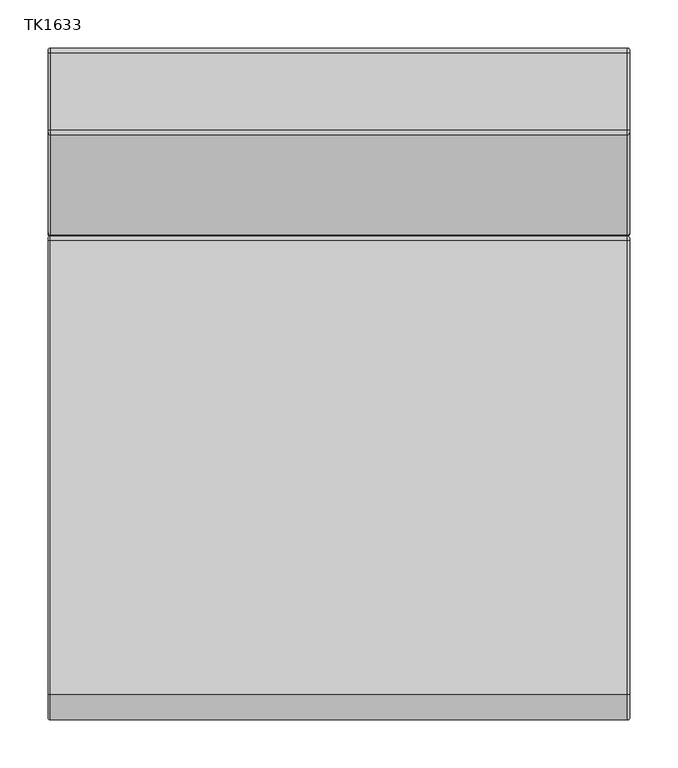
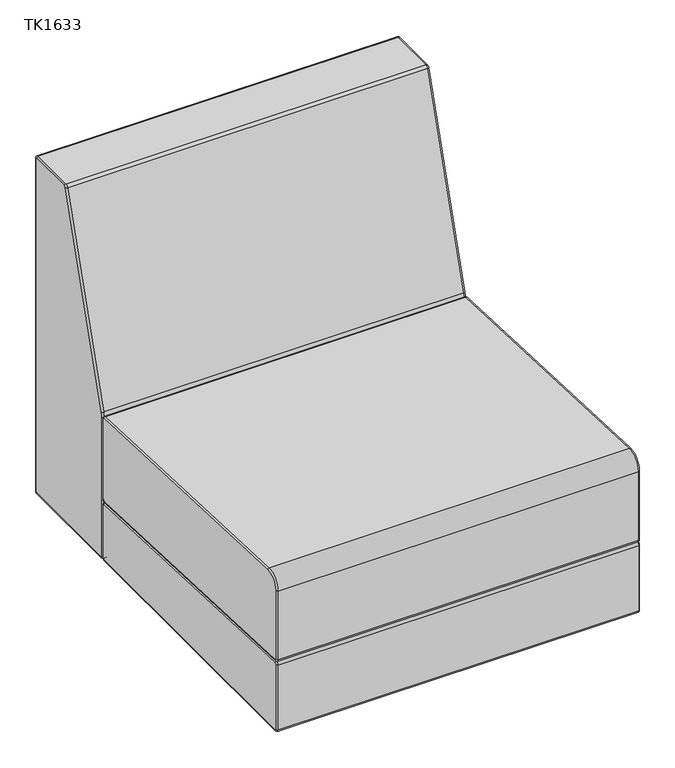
"""IFC4 building model written with IfcOpenShell, lengths in millimetres: furniture geometry, JSI-Teekan-Three_Seat_Lounge : TK1633."""

from ifc_helpers import new_model, si_unit, point, frame, origin, place, context, project, spatial, circle_curve, ellipse_curve, trimmed, source, transform, mapped, element, save
from ifc_brep_helpers import plane_surface, cylinder_surface, revolved_surface, advanced_brep


def tk1633_6774717b(model_context):
    return source(origin(), model_context, "Body", "AdvancedBrep", [
        advanced_brep(
        [(905.4703125, 148.7693192, 295.6513391), (905.4703125, 153.733973, 300.4095468), (907.8515625, 151.352723, 300.4095468), (907.8515625, 148.8703961, 298.0304429), (304.9984375, 148.7693192, 295.6513391), (304.9984375, 153.733973, 300.4095468), (302.6171875, 148.8703961, 298.0304429), (302.6171875, 151.352723, 300.4095468), (907.8515625, -344.5512855, 318.9936072), (905.4703125, -344.6523625, 316.6145034), (304.9984375, -344.6523625, 316.6145034), (302.6171875, -344.5512855, 318.9936072), (905.4703125, -322.7527962, 467.50355), (907.8515625, -322.8538731, 465.1244462), (907.8515625, 149.0725499, 445.0745142), (905.4703125, 149.1736269, 447.4536181), (304.9984375, 149.1736269, 447.4536181), (304.9984375, -322.7527962, 467.50355), (302.6171875, 149.0725499, 445.0745142), (302.6171875, -322.8538731, 465.1244462), (907.8515625, 151.352723, 442.6954104), (905.4703125, 153.733973, 442.6954104), (304.9984375, 153.733973, 442.6954104), (302.6171875, 151.352723, 442.6954104), (907.8515625, -346.8497, 321.3917439), (905.4703125, -349.23095, 321.3917439), (304.9984375, -349.23095, 321.3917439), (302.6171875, -346.8497, 321.3917439), (907.8515625, -346.8497, 442.1264425), (905.4703125, -349.23095, 442.1264425), (304.9984375, -349.23095, 442.1264425), (302.6171875, -346.8497, 442.1264425)],
        [
            (0, 1, circle_curve(frame((905.4703125, 148.971473, 300.4095468), z_axis=(1.0, 0.0, 0.0), x_axis=(0.0, 1.0, 0.0)), 4.7625)),
            (1, 2, circle_curve(frame((905.4703125, 151.352723, 300.4095468), z_axis=(0.0, 0.0, -1.0), x_axis=(1.0, 0.0, 0.0)), 2.38125)),
            (2, 3, circle_curve(frame((907.8515625, 148.971473, 300.4095468), z_axis=(-1.0, 0.0, 0.0), x_axis=(0.0, 1.0, 0.0)), 2.38125)),
            (3, 0, circle_curve(frame((905.4703125, 148.8703961, 298.0304429), z_axis=(0.0, 0.9990987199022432, -0.04244700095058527), x_axis=(1.0, 0.0, 0.0)), 2.38125)),
            (0, 4),
            (4, 5, circle_curve(frame((304.9984375, 148.971473, 300.4095468), z_axis=(1.0, 0.0, 0.0), x_axis=(0.0, 1.0, 0.0)), 4.7625)),
            (5, 1),
            (4, 6, circle_curve(frame((304.9984375, 148.8703961, 298.0304429), z_axis=(0.0, 0.999098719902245, -0.042447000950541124), x_axis=(1.0, 0.0, 0.0)), 2.38125)),
            (6, 7, circle_curve(frame((302.6171875, 148.971473, 300.4095468), z_axis=(1.0, 0.0, 0.0), x_axis=(0.0, 1.0, 0.0)), 2.38125)),
            (7, 5, circle_curve(frame((304.9984375, 151.352723, 300.4095468), z_axis=(0.0, 0.0, -1.0), x_axis=(1.0, 0.0, 0.0)), 2.38125)),
            (3, 8),
            (8, 9, circle_curve(frame((905.4703125, -344.5512855, 318.9936072), z_axis=(0.0, 0.9990987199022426, -0.04244700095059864), x_axis=(1.0, 0.0, 0.0)), 2.38125)),
            (9, 0),
            (9, 10),
            (10, 4),
            (10, 11, circle_curve(frame((304.9984375, -344.5512855, 318.9936072), z_axis=(0.0, 0.9990987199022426, -0.04244700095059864), x_axis=(1.0, 0.0, 0.0)), 2.38125)),
            (11, 6),
            (12, 13, circle_curve(frame((905.4703125, -322.8538731, 465.1244462), z_axis=(0.0, 0.9990987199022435, -0.0424470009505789), x_axis=(1.0, 0.0, 0.0)), 2.38125)),
            (13, 14),
            (14, 15, circle_curve(frame((905.4703125, 149.0725499, 445.0745142), z_axis=(0.0, -0.9990987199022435, 0.0424470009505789), x_axis=(1.0, 0.0, 0.0)), 2.38125)),
            (15, 12),
            (15, 16),
            (16, 17),
            (17, 12),
            (16, 18, circle_curve(frame((304.9984375, 149.0725499, 445.0745142), z_axis=(0.0, -0.9990987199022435, 0.0424470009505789), x_axis=(1.0, 0.0, 0.0)), 2.38125)),
            (18, 19),
            (19, 17, circle_curve(frame((304.9984375, -322.8538731, 465.1244462), z_axis=(0.0, 0.9990987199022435, -0.0424470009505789), x_axis=(1.0, 0.0, 0.0)), 2.38125)),
            (14, 20, circle_curve(frame((907.8515625, 148.971473, 442.6954104), z_axis=(-1.0, 0.0, 0.0), x_axis=(0.0, 0.04244700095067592, 0.9990987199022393)), 2.38125)),
            (20, 21, circle_curve(frame((905.4703125, 151.352723, 442.6954104), z_axis=(0.0, 0.0, 1.0), x_axis=(1.0, 0.0, 0.0)), 2.38125)),
            (21, 15, circle_curve(frame((905.4703125, 148.971473, 442.6954104), z_axis=(1.0, 0.0, 0.0), x_axis=(0.0, 0.04244700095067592, 0.9990987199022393)), 4.7625)),
            (21, 22),
            (22, 16, circle_curve(frame((304.9984375, 148.971473, 442.6954104), z_axis=(1.0, 0.0, 0.0), x_axis=(0.0, 0.04244700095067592, 0.9990987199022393)), 4.7625)),
            (22, 23, circle_curve(frame((304.9984375, 151.352723, 442.6954104), z_axis=(0.0, 0.0, 1.0), x_axis=(1.0, 0.0, 0.0)), 2.38125)),
            (23, 18, circle_curve(frame((302.6171875, 148.971473, 442.6954104), z_axis=(1.0, 0.0, 0.0), x_axis=(0.0, 0.04244700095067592, 0.9990987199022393)), 2.38125)),
            (1, 21),
            (20, 2),
            (5, 22),
            (7, 23),
            (8, 24, circle_curve(frame((907.8515625, -344.4494, 321.3917439), z_axis=(-1.0, 0.0, 0.0), x_axis=(0.0, -0.04244700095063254, -0.9990987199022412)), 2.4003)),
            (24, 25, circle_curve(frame((905.4703125, -346.8497, 321.3917439), z_axis=(0.0, 0.0, -1.0), x_axis=(1.0, 0.0, 0.0)), 2.38125)),
            (25, 9, circle_curve(frame((905.4703125, -344.4494, 321.3917439), z_axis=(1.0, 0.0, 0.0), x_axis=(0.0, -0.04244700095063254, -0.9990987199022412)), 4.78155)),
            (25, 26),
            (26, 10, circle_curve(frame((304.9984375, -344.4494, 321.3917439), z_axis=(1.0, 0.0, 0.0), x_axis=(0.0, -0.04244700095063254, -0.9990987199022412)), 4.78155)),
            (26, 27, circle_curve(frame((304.9984375, -346.8497, 321.3917439), z_axis=(0.0, 0.0, -1.0), x_axis=(1.0, 0.0, 0.0)), 2.38125)),
            (27, 11, circle_curve(frame((302.6171875, -344.4494, 321.3917439), z_axis=(1.0, 0.0, 0.0), x_axis=(0.0, -0.04244700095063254, -0.9990987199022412)), 2.4003)),
            (24, 28),
            (28, 29, circle_curve(frame((905.4703125, -346.8497, 442.1264425), z_axis=(0.0, 0.0, -1.0), x_axis=(1.0, 0.0, 0.0)), 2.38125)),
            (29, 25),
            (29, 30),
            (30, 26),
            (30, 31, circle_curve(frame((304.9984375, -346.8497, 442.1264425), z_axis=(0.0, 0.0, -1.0), x_axis=(1.0, 0.0, 0.0)), 2.38125)),
            (31, 27),
            (13, 28, circle_curve(frame((907.8515625, -323.83095, 442.1264425), z_axis=(1.0, 0.0, 0.0), x_axis=(0.0, -1.0, 0.0)), 23.01875)),
            (12, 29, circle_curve(frame((905.4703125, -323.83095, 442.1264425), z_axis=(1.0, 0.0, 0.0), x_axis=(0.0, -1.0, 0.0)), 25.4)),
            (17, 30, circle_curve(frame((304.9984375, -323.83095, 442.1264425), z_axis=(1.0, 0.0, 0.0), x_axis=(0.0, -1.0, 0.0)), 25.4)),
            (19, 31, circle_curve(frame((302.6171875, -323.83095, 442.1264425), z_axis=(1.0, 0.0, 0.0), x_axis=(0.0, -1.0, 0.0)), 23.01875)),
        ],
        [
            revolved_surface(trimmed(ellipse_curve(frame((905.4703125, 151.352723, 300.4095468), z_axis=(0.0, 0.0, 1.0), x_axis=(1.0, 0.0, 0.0)), 2.38125, 2.38125), [point((907.8515625, 151.352723, 300.4095468))], [point((905.4703125, 153.733973, 300.4095468))], True, "CARTESIAN"), (605.234375, 148.971473, 300.4095468), (-1.0, 0.0, 0.0)),
            cylinder_surface(frame((605.234375, 148.971473, 300.4095468), z_axis=(-1.0, 0.0, 0.0), x_axis=(0.0, 1.0, 0.0)), 4.7625),
            revolved_surface(trimmed(ellipse_curve(frame((304.9984375, 151.352723, 300.4095468), z_axis=(0.0, 0.0, 1.0), x_axis=(1.0, 0.0, 0.0)), 2.38125, 2.38125), [point((304.9984375, 153.733973, 300.4095468))], [point((302.6171875, 151.352723, 300.4095468))], True, "CARTESIAN"), (605.234375, 148.971473, 300.4095468), (-1.0, 0.0, 0.0)),
            cylinder_surface(frame((905.4703125, 148.8703961, 298.0304429), z_axis=(0.0, 0.9990987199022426, -0.04244700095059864), x_axis=(1.0, 0.0, 0.0)), 2.38125),
            plane_surface(frame((905.4703125, 148.7693192, 295.6513391), z_axis=(0.0, -0.04244700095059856, -0.9990987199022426), x_axis=(0.0, -0.9990987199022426, 0.04244700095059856))),
            cylinder_surface(frame((304.9984375, 148.8703961, 298.0304429), z_axis=(0.0, 0.9990987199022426, -0.04244700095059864), x_axis=(1.0, 0.0, 0.0)), 2.38125),
            cylinder_surface(frame((905.4703125, -322.8538731, 465.1244462), z_axis=(0.0, -0.9990987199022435, 0.0424470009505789), x_axis=(1.0, 0.0, 0.0)), 2.38125),
            plane_surface(frame((905.4703125, -322.7527962, 467.50355), z_axis=(0.0, 0.04244700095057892, 0.9990987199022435), x_axis=(0.0, 0.9990987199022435, -0.04244700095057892))),
            cylinder_surface(frame((304.9984375, -322.8538731, 465.1244462), z_axis=(0.0, -0.9990987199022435, 0.0424470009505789), x_axis=(1.0, 0.0, 0.0)), 2.38125),
            revolved_surface(trimmed(ellipse_curve(frame((905.4703125, 149.0725499, 445.0745142), z_axis=(0.0, -0.9990987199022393, 0.04244700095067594), x_axis=(1.0, 0.0, 0.0)), 2.38125, 2.38125), [point((907.8515625, 149.0725499, 445.0745142))], [point((905.4703125, 149.1736269, 447.4536181))], True, "CARTESIAN"), (605.234375, 148.971473, 442.6954104), (-1.0, 0.0, 0.0)),
            cylinder_surface(frame((605.234375, 148.971473, 442.6954104), z_axis=(-1.0, 0.0, 0.0), x_axis=(0.0, 0.04244700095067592, 0.9990987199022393)), 4.7625),
            revolved_surface(trimmed(ellipse_curve(frame((304.9984375, 149.0725499, 445.0745142), z_axis=(0.0, -0.9990987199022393, 0.04244700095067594), x_axis=(1.0, 0.0, 0.0)), 2.38125, 2.38125), [point((304.9984375, 149.1736269, 447.4536181))], [point((302.6171875, 149.0725499, 445.0745142))], True, "CARTESIAN"), (605.234375, 148.971473, 442.6954104), (-1.0, 0.0, 0.0)),
            cylinder_surface(frame((905.4703125, 151.352723, 442.6954104), z_axis=(0.0, 0.0, 1.0), x_axis=(1.0, 0.0, 0.0)), 2.38125),
            plane_surface(frame((905.4703125, 153.733973, 442.6954104), z_axis=(0.0, 1.0, 0.0), x_axis=(0.0, 0.0, -1.0))),
            cylinder_surface(frame((304.9984375, 151.352723, 442.6954104), z_axis=(0.0, 0.0, 1.0), x_axis=(1.0, 0.0, 0.0)), 2.38125),
            revolved_surface(trimmed(ellipse_curve(frame((905.4703125, -344.5512855, 318.9936072), z_axis=(0.0, 0.9990987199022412, -0.042447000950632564), x_axis=(1.0, 0.0, 0.0)), 2.38125, 2.38125), [point((907.8515625, -344.5512855, 318.9936072))], [point((905.4703125, -344.6523625, 316.6145034))], True, "CARTESIAN"), (605.234375, -344.4494, 321.3917439), (-1.0, 0.0, 0.0)),
            cylinder_surface(frame((605.234375, -344.4494, 321.3917439), z_axis=(-1.0, 0.0, 0.0), x_axis=(0.0, -0.04244700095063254, -0.9990987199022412)), 4.78155),
            revolved_surface(trimmed(ellipse_curve(frame((304.9984375, -344.5512855, 318.9936072), z_axis=(0.0, 0.9990987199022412, -0.042447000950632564), x_axis=(1.0, 0.0, 0.0)), 2.38125, 2.38125), [point((304.9984375, -344.6523625, 316.6145034))], [point((302.6171875, -344.5512855, 318.9936072))], True, "CARTESIAN"), (605.234375, -344.4494, 321.3917439), (-1.0, 0.0, 0.0)),
            cylinder_surface(frame((905.4703125, -346.8497, 321.3917439), z_axis=(0.0, 0.0, -1.0), x_axis=(1.0, 0.0, 0.0)), 2.38125),
            plane_surface(frame((905.4703125, -349.23095, 321.3917439), z_axis=(0.0, -1.0, 0.0), x_axis=(0.0, 0.0, 1.0))),
            cylinder_surface(frame((304.9984375, -346.8497, 321.3917439), z_axis=(0.0, 0.0, -1.0), x_axis=(1.0, 0.0, 0.0)), 2.38125),
            plane_surface(frame((907.8515625, -323.83095, 442.1264425), z_axis=(1.0, 0.0, 0.0), x_axis=(0.0, -1.0, 0.0))),
            revolved_surface(trimmed(ellipse_curve(frame((905.4703125, -346.8497, 442.1264425), z_axis=(0.0, 0.0, -1.0), x_axis=(1.0, 0.0, 0.0)), 2.38125, 2.38125), [point((907.8515625, -346.8497, 442.1264425))], [point((905.4703125, -349.23095, 442.1264425))], True, "CARTESIAN"), (605.234375, -323.83095, 442.1264425), (-1.0, 0.0, 0.0)),
            cylinder_surface(frame((605.234375, -323.83095, 442.1264425), z_axis=(-1.0, 0.0, 0.0), x_axis=(0.0, -1.0, 0.0)), 25.4),
            revolved_surface(trimmed(ellipse_curve(frame((304.9984375, -346.8497, 442.1264425), z_axis=(0.0, 0.0, -1.0), x_axis=(1.0, 0.0, 0.0)), 2.38125, 2.38125), [point((304.9984375, -349.23095, 442.1264425))], [point((302.6171875, -346.8497, 442.1264425))], True, "CARTESIAN"), (605.234375, -323.83095, 442.1264425), (-1.0, 0.0, 0.0)),
            plane_surface(frame((302.6171875, -323.83095, 442.1264425), z_axis=(-1.0, 0.0, 0.0), x_axis=(0.0, -1.0, 0.0))),
        ],
        [
            (0, [[1, 2, 3, 4]]),
            (1, [[-1, 5, 6, 7]]),
            (2, [[-6, 8, 9, 10]]),
            (3, [[-4, 11, 12, 13]]),
            (4, [[-5, -13, 14, 15]]),
            (5, [[-8, -15, 16, 17]]),
            (6, [[18, 19, 20, 21]]),
            (7, [[-21, 22, 23, 24]]),
            (8, [[-23, 25, 26, 27]]),
            (9, [[-20, 28, 29, 30]]),
            (10, [[-22, -30, 31, 32]]),
            (11, [[-25, -32, 33, 34]]),
            (12, [[-2, 35, -29, 36]]),
            (13, [[-7, 37, -31, -35]]),
            (14, [[-10, 38, -33, -37]]),
            (15, [[-12, 39, 40, 41]]),
            (16, [[-14, -41, 42, 43]]),
            (17, [[-16, -43, 44, 45]]),
            (18, [[-40, 46, 47, 48]]),
            (19, [[-42, -48, 49, 50]]),
            (20, [[-44, -50, 51, 52]]),
            (21, [[-3, -36, -28, -19, 53, -46, -39, -11]]),
            (22, [[-18, 54, -47, -53]]),
            (23, [[-24, 55, -49, -54]]),
            (24, [[-27, 56, -51, -55]]),
            (25, [[-9, -17, -45, -52, -56, -26, -34, -38]]),
        ],
    ),
        advanced_brep(
        [(304.9984375, -349.25, 197.5346851), (905.4703125, -349.25, 197.5346851), (905.4703125, -349.25, 311.8407029), (304.9984375, -349.25, 311.8407029), (302.6171875, -346.86875, 311.8407029), (302.6171875, -346.86875, 197.5346851), (907.8515625, -346.86875, 197.5346851), (907.8515625, -346.86875, 311.8407029), (304.9984375, -344.2853462, 316.5989106), (905.4703125, -344.2853462, 316.5989106), (905.4703125, 149.169864, 295.6343219), (304.9984375, 149.169864, 295.6343219), (302.6171875, 149.0687871, 293.255218), (302.6171875, -344.3864231, 314.2198068), (907.8515625, -344.3864231, 314.2198068), (907.8515625, 149.0687871, 293.255218), (905.4703125, 153.7302102, 290.8761142), (304.9984375, 153.7302102, 290.8761142), (302.6171875, 151.3489602, 290.8761142), (907.8515625, 151.3489602, 290.8761142), (905.4703125, 153.7302102, 197.5346851), (304.9984375, 153.7302102, 197.5346851), (302.6171875, 151.3489602, 197.5346851), (907.8515625, 151.3489602, 197.5346851), (905.4703125, 148.9677102, 192.7721851), (304.9984375, 148.9677102, 192.7721851), (302.6171875, 148.9677102, 195.1534351), (907.8515625, 148.9677102, 195.1534351), (905.4703125, -344.4875, 192.7721851), (304.9984375, -344.4875, 192.7721851), (302.6171875, -344.4875, 195.1534351), (907.8515625, -344.4875, 195.1534351)],
        [
            (0, 1),
            (1, 2),
            (2, 3),
            (3, 0),
            (3, 4, circle_curve(frame((304.9984375, -346.86875, 311.8407029), z_axis=(0.0, 0.0, -1.0), x_axis=(0.0, -1.0, 0.0)), 2.38125)),
            (4, 5),
            (5, 0, circle_curve(frame((304.9984375, -346.86875, 197.5346851), z_axis=(0.0, 0.0, 1.0), x_axis=(0.0, -1.0, 0.0)), 2.38125)),
            (1, 6, circle_curve(frame((905.4703125, -346.86875, 197.5346851), z_axis=(0.0, 0.0, 1.0), x_axis=(0.0, -1.0, 0.0)), 2.38125)),
            (6, 7),
            (7, 2, circle_curve(frame((905.4703125, -346.86875, 311.8407029), z_axis=(0.0, 0.0, -1.0), x_axis=(0.0, -1.0, 0.0)), 2.38125)),
            (8, 9),
            (9, 10),
            (10, 11),
            (11, 8),
            (11, 12, circle_curve(frame((304.9984375, 149.0687871, 293.255218), z_axis=(0.0, -0.9990987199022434, 0.04244700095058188), x_axis=(0.0, 0.04244700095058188, 0.9990987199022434)), 2.38125)),
            (12, 13),
            (13, 8, circle_curve(frame((304.9984375, -344.3864231, 314.2198068), z_axis=(0.0, 0.9990987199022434, -0.04244700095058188), x_axis=(0.0, 0.04244700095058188, 0.9990987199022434)), 2.38125)),
            (9, 14, circle_curve(frame((905.4703125, -344.3864231, 314.2198068), z_axis=(0.0, 0.9990987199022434, -0.04244700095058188), x_axis=(0.0, 0.04244700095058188, 0.9990987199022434)), 2.38125)),
            (14, 15),
            (15, 10, circle_curve(frame((905.4703125, 149.0687871, 293.255218), z_axis=(0.0, -0.9990987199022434, 0.04244700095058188), x_axis=(0.0, 0.04244700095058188, 0.9990987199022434)), 2.38125)),
            (10, 16, circle_curve(frame((905.4703125, 148.9677102, 290.8761142), z_axis=(-1.0, 0.0, 0.0), x_axis=(0.0, 0.0424470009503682, 0.9990987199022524)), 4.7625)),
            (16, 17),
            (17, 11, circle_curve(frame((304.9984375, 148.9677102, 290.8761142), z_axis=(1.0, 0.0, 0.0), x_axis=(0.0, 0.0424470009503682, 0.9990987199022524)), 4.7625)),
            (17, 18, circle_curve(frame((304.9984375, 151.3489602, 290.8761142), z_axis=(0.0, 0.0, 1.0), x_axis=(0.0, 1.0, 0.0)), 2.38125)),
            (18, 12, circle_curve(frame((302.6171875, 148.9677102, 290.8761142), z_axis=(1.0, 0.0, 0.0), x_axis=(0.0, 0.0424470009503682, 0.9990987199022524)), 2.38125)),
            (15, 19, circle_curve(frame((907.8515625, 148.9677102, 290.8761142), z_axis=(-1.0, 0.0, 0.0), x_axis=(0.0, 0.0424470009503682, 0.9990987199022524)), 2.38125)),
            (19, 16, circle_curve(frame((905.4703125, 151.3489602, 290.8761142), z_axis=(0.0, 0.0, 1.0), x_axis=(0.0, 1.0, 0.0)), 2.38125)),
            (16, 20),
            (20, 21),
            (21, 17),
            (21, 22, circle_curve(frame((304.9984375, 151.3489602, 197.5346851), z_axis=(0.0, 0.0, 1.0), x_axis=(0.0, 1.0, 0.0)), 2.38125)),
            (22, 18),
            (19, 23),
            (23, 20, circle_curve(frame((905.4703125, 151.3489602, 197.5346851), z_axis=(0.0, 0.0, 1.0), x_axis=(0.0, 1.0, 0.0)), 2.38125)),
            (20, 24, circle_curve(frame((905.4703125, 148.9677102, 197.5346851), z_axis=(-1.0, 0.0, 0.0), x_axis=(0.0, 1.0, 0.0)), 4.7625)),
            (24, 25),
            (25, 21, circle_curve(frame((304.9984375, 148.9677102, 197.5346851), z_axis=(1.0, 0.0, 0.0), x_axis=(0.0, 1.0, 0.0)), 4.7625)),
            (25, 26, circle_curve(frame((304.9984375, 148.9677102, 195.1534351), z_axis=(0.0, 1.0, 0.0), x_axis=(0.0, 0.0, -1.0)), 2.38125)),
            (26, 22, circle_curve(frame((302.6171875, 148.9677102, 197.5346851), z_axis=(1.0, 0.0, 0.0), x_axis=(0.0, 1.0, 0.0)), 2.38125)),
            (23, 27, circle_curve(frame((907.8515625, 148.9677102, 197.5346851), z_axis=(-1.0, 0.0, 0.0), x_axis=(0.0, 1.0, 0.0)), 2.38125)),
            (27, 24, circle_curve(frame((905.4703125, 148.9677102, 195.1534351), z_axis=(0.0, 1.0, 0.0), x_axis=(0.0, 0.0, -1.0)), 2.38125)),
            (24, 28),
            (28, 29),
            (29, 25),
            (29, 30, circle_curve(frame((304.9984375, -344.4875, 195.1534351), z_axis=(0.0, 1.0, 0.0), x_axis=(0.0, 0.0, -1.0)), 2.38125)),
            (30, 26),
            (27, 31),
            (31, 28, circle_curve(frame((905.4703125, -344.4875, 195.1534351), z_axis=(0.0, 1.0, 0.0), x_axis=(0.0, 0.0, -1.0)), 2.38125)),
            (0, 29, circle_curve(frame((304.9984375, -344.4875, 197.5346851), z_axis=(1.0, 0.0, 0.0), x_axis=(0.0, 0.0, -1.0)), 4.7625)),
            (28, 1, circle_curve(frame((905.4703125, -344.4875, 197.5346851), z_axis=(-1.0, 0.0, 0.0), x_axis=(0.0, 0.0, -1.0)), 4.7625)),
            (5, 30, circle_curve(frame((302.6171875, -344.4875, 197.5346851), z_axis=(1.0, 0.0, 0.0), x_axis=(0.0, 0.0, -1.0)), 2.38125)),
            (31, 6, circle_curve(frame((907.8515625, -344.4875, 197.5346851), z_axis=(-1.0, 0.0, 0.0), x_axis=(0.0, 0.0, -1.0)), 2.38125)),
            (2, 9, circle_curve(frame((905.4703125, -344.4875, 311.8407029), z_axis=(-1.0, 0.0, 0.0), x_axis=(0.0, -1.0, 0.0)), 4.7625)),
            (8, 3, circle_curve(frame((304.9984375, -344.4875, 311.8407029), z_axis=(1.0, 0.0, 0.0), x_axis=(0.0, -1.0, 0.0)), 4.7625)),
            (13, 4, circle_curve(frame((302.6171875, -344.4875, 311.8407029), z_axis=(1.0, 0.0, 0.0), x_axis=(0.0, -1.0, 0.0)), 2.38125)),
            (14, 7, circle_curve(frame((907.8515625, -344.4875, 311.8407029), z_axis=(1.0, 0.0, 0.0), x_axis=(0.0, -1.0, 0.0)), 2.38125)),
        ],
        [
            plane_surface(frame((905.4703125, -349.25, 197.5346851), z_axis=(0.0, -1.0, 0.0), x_axis=(0.0, 0.0, 1.0))),
            cylinder_surface(frame((304.9984375, -346.86875, 197.5346851), z_axis=(0.0, 0.0, -1.0), x_axis=(0.0, -1.0, 0.0)), 2.38125),
            cylinder_surface(frame((905.4703125, -346.86875, 197.5346851), z_axis=(0.0, 0.0, -1.0), x_axis=(0.0, -1.0, 0.0)), 2.38125),
            plane_surface(frame((905.4703125, -344.2853462, 316.5989106), z_axis=(0.0, 0.04244700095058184, 0.9990987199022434), x_axis=(0.0, 0.9990987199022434, -0.04244700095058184))),
            cylinder_surface(frame((304.9984375, -344.3864231, 314.2198068), z_axis=(0.0, -0.9990987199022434, 0.04244700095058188), x_axis=(0.0, 0.04244700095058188, 0.9990987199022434)), 2.38125),
            cylinder_surface(frame((905.4703125, -344.3864231, 314.2198068), z_axis=(0.0, -0.9990987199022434, 0.04244700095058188), x_axis=(0.0, 0.04244700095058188, 0.9990987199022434)), 2.38125),
            cylinder_surface(frame((605.234375, 148.9677102, 290.8761142), z_axis=(-1.0, 0.0, 0.0), x_axis=(0.0, 0.0424470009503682, 0.9990987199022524)), 4.7625),
            revolved_surface(trimmed(ellipse_curve(frame((304.9984375, 149.0687871, 293.255218), z_axis=(0.0, -0.9990987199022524, 0.042447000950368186), x_axis=(0.0, 0.042447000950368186, 0.9990987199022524)), 2.38125, 2.38125), [point((304.9984375, 149.169864, 295.6343219))], [point((302.6171875, 149.0687871, 293.255218))], True, "CARTESIAN"), (605.234375, 148.9677102, 290.8761142), (-1.0, 0.0, 0.0)),
            revolved_surface(trimmed(ellipse_curve(frame((905.4703125, 149.0687871, 293.255218), z_axis=(0.0, -0.9990987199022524, 0.042447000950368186), x_axis=(0.0, 0.042447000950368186, 0.9990987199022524)), 2.38125, 2.38125), [point((907.8515625, 149.0687871, 293.255218))], [point((905.4703125, 149.169864, 295.6343219))], True, "CARTESIAN"), (605.234375, 148.9677102, 290.8761142), (-1.0, 0.0, 0.0)),
            plane_surface(frame((905.4703125, 153.7302102, 290.8761142), z_axis=(0.0, 1.0, 0.0), x_axis=(0.0, 0.0, -1.0))),
            cylinder_surface(frame((304.9984375, 151.3489602, 290.8761142), z_axis=(0.0, 0.0, 1.0), x_axis=(0.0, 1.0, 0.0)), 2.38125),
            cylinder_surface(frame((905.4703125, 151.3489602, 290.8761142), z_axis=(0.0, 0.0, 1.0), x_axis=(0.0, 1.0, 0.0)), 2.38125),
            cylinder_surface(frame((605.234375, 148.9677102, 197.5346851), z_axis=(-1.0, 0.0, 0.0), x_axis=(0.0, 1.0, 0.0)), 4.7625),
            revolved_surface(trimmed(ellipse_curve(frame((304.9984375, 151.3489602, 197.5346851), z_axis=(0.0, 0.0, 1.0), x_axis=(0.0, 1.0, 0.0)), 2.38125, 2.38125), [point((304.9984375, 153.7302102, 197.5346851))], [point((302.6171875, 151.3489602, 197.5346851))], True, "CARTESIAN"), (605.234375, 148.9677102, 197.5346851), (-1.0, 0.0, 0.0)),
            revolved_surface(trimmed(ellipse_curve(frame((905.4703125, 151.3489602, 197.5346851), z_axis=(0.0, 0.0, 1.0), x_axis=(0.0, 1.0, 0.0)), 2.38125, 2.38125), [point((907.8515625, 151.3489602, 197.5346851))], [point((905.4703125, 153.7302102, 197.5346851))], True, "CARTESIAN"), (605.234375, 148.9677102, 197.5346851), (-1.0, 0.0, 0.0)),
            plane_surface(frame((905.4703125, 148.9677102, 192.7721851), z_axis=(0.0, 0.0, -1.0), x_axis=(0.0, -1.0, 0.0))),
            cylinder_surface(frame((304.9984375, 148.9677102, 195.1534351), z_axis=(0.0, 1.0, 0.0), x_axis=(0.0, 0.0, -1.0)), 2.38125),
            cylinder_surface(frame((905.4703125, 148.9677102, 195.1534351), z_axis=(0.0, 1.0, 0.0), x_axis=(0.0, 0.0, -1.0)), 2.38125),
            cylinder_surface(frame((605.234375, -344.4875, 197.5346851), z_axis=(-1.0, 0.0, 0.0), x_axis=(0.0, 0.0, -1.0)), 4.7625),
            revolved_surface(trimmed(ellipse_curve(frame((304.9984375, -344.4875, 195.1534351), z_axis=(0.0, 1.0, 0.0), x_axis=(0.0, 0.0, -1.0)), 2.38125, 2.38125), [point((304.9984375, -344.4875, 192.7721851))], [point((302.6171875, -344.4875, 195.1534351))], True, "CARTESIAN"), (605.234375, -344.4875, 197.5346851), (-1.0, 0.0, 0.0)),
            revolved_surface(trimmed(ellipse_curve(frame((905.4703125, -344.4875, 195.1534351), z_axis=(0.0, 1.0, 0.0), x_axis=(0.0, 0.0, -1.0)), 2.38125, 2.38125), [point((907.8515625, -344.4875, 195.1534351))], [point((905.4703125, -344.4875, 192.7721851))], True, "CARTESIAN"), (605.234375, -344.4875, 197.5346851), (-1.0, 0.0, 0.0)),
            cylinder_surface(frame((605.234375, -344.4875, 311.8407029), z_axis=(-1.0, 0.0, 0.0), x_axis=(0.0, -1.0, 0.0)), 4.7625),
            revolved_surface(trimmed(ellipse_curve(frame((304.9984375, -346.86875, 311.8407029), z_axis=(0.0, 0.0, -1.0), x_axis=(0.0, -1.0, 0.0)), 2.38125, 2.38125), [point((304.9984375, -349.25, 311.8407029))], [point((302.6171875, -346.86875, 311.8407029))], True, "CARTESIAN"), (605.234375, -344.4875, 311.8407029), (-1.0, 0.0, 0.0)),
            plane_surface(frame((302.6171875, -344.4875, 311.8407029), z_axis=(-1.0, 0.0, 0.0), x_axis=(0.0, -1.0, 0.0))),
            plane_surface(frame((907.8515625, -344.4875, 311.8407029), z_axis=(1.0, 0.0, 0.0), x_axis=(0.0, -1.0, 0.0))),
            revolved_surface(trimmed(ellipse_curve(frame((905.4703125, -346.86875, 311.8407029), z_axis=(0.0, 0.0, -1.0), x_axis=(0.0, -1.0, 0.0)), 2.38125, 2.38125), [point((907.8515625, -346.86875, 311.8407029))], [point((905.4703125, -349.25, 311.8407029))], True, "CARTESIAN"), (605.234375, -344.4875, 311.8407029), (-1.0, 0.0, 0.0)),
        ],
        [
            (0, [[1, 2, 3, 4]]),
            (1, [[-4, 5, 6, 7]]),
            (2, [[-2, 8, 9, 10]]),
            (3, [[11, 12, 13, 14]]),
            (4, [[-14, 15, 16, 17]]),
            (5, [[-12, 18, 19, 20]]),
            (6, [[-13, 21, 22, 23]]),
            (7, [[-15, -23, 24, 25]]),
            (8, [[-20, 26, 27, -21]]),
            (9, [[-22, 28, 29, 30]]),
            (10, [[-24, -30, 31, 32]]),
            (11, [[-27, 33, 34, -28]]),
            (12, [[-29, 35, 36, 37]]),
            (13, [[-31, -37, 38, 39]]),
            (14, [[-34, 40, 41, -35]]),
            (15, [[-36, 42, 43, 44]]),
            (16, [[-38, -44, 45, 46]]),
            (17, [[-41, 47, 48, -42]]),
            (18, [[-1, 49, -43, 50]]),
            (19, [[-7, 51, -45, -49]]),
            (20, [[-8, -50, -48, 52]]),
            (21, [[-3, 53, -11, 54]]),
            (22, [[-5, -54, -17, 55]]),
            (23, [[-6, -55, -16, -25, -32, -39, -46, -51]]),
            (24, [[-9, -52, -47, -40, -33, -26, -19, 56]]),
            (25, [[-10, -56, -18, -53]]),
        ],
    ),
        advanced_brep(
        [(907.8515625, 261.4671324, 783.3496278), (907.8515625, 263.7394056, 785.01875), (905.4703125, 263.7394056, 787.4), (905.4703125, 259.1948592, 784.0617556), (304.9984375, 259.1948592, 784.0617556), (304.9984375, 263.7394056, 787.4), (302.6171875, 263.7394056, 785.01875), (302.6171875, 261.4671324, 783.3496278), (905.4703125, 155.07802, 451.8434221), (907.8515625, 157.3502932, 451.1312943), (302.6171875, 157.3502932, 451.1312943), (304.9984375, 155.07802, 451.8434221), (905.4703125, 153.733973, 443.0605128), (907.8515625, 156.115223, 443.0605128), (302.6171875, 156.115223, 443.0605128), (304.9984375, 153.733973, 443.0605128), (905.4703125, 153.733973, 197.5346851), (907.8515625, 156.115223, 197.5346851), (302.6171875, 156.115223, 197.5346851), (304.9984375, 153.733973, 197.5346851), (905.4703125, 158.496473, 192.7721851), (907.8515625, 158.496473, 195.1534351), (302.6171875, 158.496473, 195.1534351), (304.9984375, 158.496473, 192.7721851), (905.4703125, 344.4875, 192.7721851), (907.8515625, 344.4875, 195.1534351), (302.6171875, 344.4875, 195.1534351), (304.9984375, 344.4875, 192.7721851), (905.4703125, 349.25, 197.5346851), (907.8515625, 346.86875, 197.5346851), (302.6171875, 346.86875, 197.5346851), (304.9984375, 349.25, 197.5346851), (905.4703125, 349.25, 782.6375), (907.8515625, 346.86875, 782.6375), (302.6171875, 346.86875, 782.6375), (304.9984375, 349.25, 782.6375), (905.4703125, 344.4875, 787.4), (907.8515625, 344.4875, 785.01875), (302.6171875, 344.4875, 785.01875), (304.9984375, 344.4875, 787.4)],
        [
            (0, 1, circle_curve(frame((907.8515625, 263.7394056, 782.6375), z_axis=(-1.0, 0.0, 0.0), x_axis=(0.0, 0.0, 1.0)), 2.38125)),
            (1, 2, circle_curve(frame((905.4703125, 263.7394056, 785.01875), z_axis=(0.0, -1.0, 0.0), x_axis=(0.0, 0.0, -1.0)), 2.38125)),
            (2, 3, circle_curve(frame((905.4703125, 263.7394056, 782.6375), z_axis=(1.0, 0.0, 0.0), x_axis=(0.0, 0.0, 1.0)), 4.7625)),
            (3, 0, circle_curve(frame((905.4703125, 261.4671324, 783.3496278), z_axis=(0.0, 0.29905628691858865, 0.9542354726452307), x_axis=(0.0, 0.9542354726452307, -0.29905628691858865)), 2.38125)),
            (4, 5, circle_curve(frame((304.9984375, 263.7394056, 782.6375), z_axis=(-1.0, 0.0, 0.0), x_axis=(0.0, 0.0, 1.0)), 4.7625)),
            (5, 6, circle_curve(frame((304.9984375, 263.7394056, 785.01875), z_axis=(0.0, -1.0, 0.0), x_axis=(0.0, 0.0, -1.0)), 2.38125)),
            (6, 7, circle_curve(frame((302.6171875, 263.7394056, 782.6375), z_axis=(1.0, 0.0, 0.0), x_axis=(0.0, 0.0, 1.0)), 2.38125)),
            (7, 4, circle_curve(frame((304.9984375, 261.4671324, 783.3496278), z_axis=(0.0, 0.29905628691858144, 0.9542354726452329), x_axis=(0.0, 0.9542354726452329, -0.29905628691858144)), 2.38125)),
            (2, 5),
            (4, 3),
            (3, 8),
            (8, 9, circle_curve(frame((905.4703125, 157.3502932, 451.1312943), z_axis=(0.0, 0.29905628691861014, 0.954235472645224), x_axis=(0.0, 0.954235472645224, -0.29905628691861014)), 2.38125)),
            (9, 0),
            (7, 10),
            (10, 11, circle_curve(frame((304.9984375, 157.3502932, 451.1312943), z_axis=(0.0, 0.29905628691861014, 0.954235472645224), x_axis=(0.0, 0.954235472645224, -0.29905628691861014)), 2.38125)),
            (11, 4),
            (11, 8),
            (8, 12, circle_curve(frame((905.4703125, 183.102723, 443.0605128), z_axis=(1.0, 0.0, 0.0), x_axis=(0.0, -0.9542354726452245, 0.29905628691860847)), 29.36875)),
            (12, 13, circle_curve(frame((905.4703125, 156.115223, 443.0605128), z_axis=(0.0, 0.0, 1.0), x_axis=(0.0, 1.0, 0.0)), 2.38125)),
            (13, 9, circle_curve(frame((907.8515625, 183.102723, 443.0605128), z_axis=(-1.0, 0.0, 0.0), x_axis=(0.0, -0.9542354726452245, 0.29905628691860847)), 26.9875)),
            (10, 14, circle_curve(frame((302.6171875, 183.102723, 443.0605128), z_axis=(1.0, 0.0, 0.0), x_axis=(0.0, -0.9542354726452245, 0.29905628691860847)), 26.9875)),
            (14, 15, circle_curve(frame((304.9984375, 156.115223, 443.0605128), z_axis=(0.0, 0.0, 1.0), x_axis=(0.0, 1.0, 0.0)), 2.38125)),
            (15, 11, circle_curve(frame((304.9984375, 183.102723, 443.0605128), z_axis=(-1.0, 0.0, 0.0), x_axis=(0.0, -0.9542354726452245, 0.29905628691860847)), 29.36875)),
            (15, 12),
            (12, 16),
            (16, 17, circle_curve(frame((905.4703125, 156.115223, 197.5346851), z_axis=(0.0, 0.0, 1.0), x_axis=(0.0, 1.0, 0.0)), 2.38125)),
            (17, 13),
            (14, 18),
            (18, 19, circle_curve(frame((304.9984375, 156.115223, 197.5346851), z_axis=(0.0, 0.0, 1.0), x_axis=(0.0, 1.0, 0.0)), 2.38125)),
            (19, 15),
            (19, 16),
            (16, 20, circle_curve(frame((905.4703125, 158.496473, 197.5346851), z_axis=(1.0, 0.0, 0.0), x_axis=(0.0, -1.0, 0.0)), 4.7625)),
            (20, 21, circle_curve(frame((905.4703125, 158.496473, 195.1534351), z_axis=(0.0, -1.0, 0.0), x_axis=(0.0, 0.0, 1.0)), 2.38125)),
            (21, 17, circle_curve(frame((907.8515625, 158.496473, 197.5346851), z_axis=(-1.0, 0.0, 0.0), x_axis=(0.0, -1.0, 0.0)), 2.38125)),
            (18, 22, circle_curve(frame((302.6171875, 158.496473, 197.5346851), z_axis=(1.0, 0.0, 0.0), x_axis=(0.0, -1.0, 0.0)), 2.38125)),
            (22, 23, circle_curve(frame((304.9984375, 158.496473, 195.1534351), z_axis=(0.0, -1.0, 0.0), x_axis=(0.0, 0.0, 1.0)), 2.38125)),
            (23, 19, circle_curve(frame((304.9984375, 158.496473, 197.5346851), z_axis=(-1.0, 0.0, 0.0), x_axis=(0.0, -1.0, 0.0)), 4.7625)),
            (23, 20),
            (20, 24),
            (24, 25, circle_curve(frame((905.4703125, 344.4875, 195.1534351), z_axis=(0.0, -1.0, 0.0), x_axis=(0.0, 0.0, 1.0)), 2.38125)),
            (25, 21),
            (22, 26),
            (26, 27, circle_curve(frame((304.9984375, 344.4875, 195.1534351), z_axis=(0.0, -1.0, 0.0), x_axis=(0.0, 0.0, 1.0)), 2.38125)),
            (27, 23),
            (27, 24),
            (24, 28, circle_curve(frame((905.4703125, 344.4875, 197.5346851), z_axis=(1.0, 0.0, 0.0), x_axis=(0.0, 0.0, -1.0)), 4.7625)),
            (28, 29, circle_curve(frame((905.4703125, 346.86875, 197.5346851), z_axis=(0.0, 0.0, -1.0), x_axis=(0.0, -1.0, 0.0)), 2.38125)),
            (29, 25, circle_curve(frame((907.8515625, 344.4875, 197.5346851), z_axis=(-1.0, 0.0, 0.0), x_axis=(0.0, 0.0, -1.0)), 2.38125)),
            (26, 30, circle_curve(frame((302.6171875, 344.4875, 197.5346851), z_axis=(1.0, 0.0, 0.0), x_axis=(0.0, 0.0, -1.0)), 2.38125)),
            (30, 31, circle_curve(frame((304.9984375, 346.86875, 197.5346851), z_axis=(0.0, 0.0, -1.0), x_axis=(0.0, -1.0, 0.0)), 2.38125)),
            (31, 27, circle_curve(frame((304.9984375, 344.4875, 197.5346851), z_axis=(-1.0, 0.0, 0.0), x_axis=(0.0, 0.0, -1.0)), 4.7625)),
            (31, 28),
            (28, 32),
            (32, 33, circle_curve(frame((905.4703125, 346.86875, 782.6375), z_axis=(0.0, 0.0, -1.0), x_axis=(0.0, -1.0, 0.0)), 2.38125)),
            (33, 29),
            (30, 34),
            (34, 35, circle_curve(frame((304.9984375, 346.86875, 782.6375), z_axis=(0.0, 0.0, -1.0), x_axis=(0.0, -1.0, 0.0)), 2.38125)),
            (35, 31),
            (35, 32),
            (32, 36, circle_curve(frame((905.4703125, 344.4875, 782.6375), z_axis=(1.0, 0.0, 0.0), x_axis=(0.0, 1.0, 0.0)), 4.7625)),
            (36, 37, circle_curve(frame((905.4703125, 344.4875, 785.01875), z_axis=(0.0, 1.0, 0.0), x_axis=(0.0, 0.0, -1.0)), 2.38125)),
            (37, 33, circle_curve(frame((907.8515625, 344.4875, 782.6375), z_axis=(-1.0, 0.0, 0.0), x_axis=(0.0, 1.0, 0.0)), 2.38125)),
            (34, 38, circle_curve(frame((302.6171875, 344.4875, 782.6375), z_axis=(1.0, 0.0, 0.0), x_axis=(0.0, 1.0, 0.0)), 2.38125)),
            (38, 39, circle_curve(frame((304.9984375, 344.4875, 785.01875), z_axis=(0.0, 1.0, 0.0), x_axis=(0.0, 0.0, -1.0)), 2.38125)),
            (39, 35, circle_curve(frame((304.9984375, 344.4875, 782.6375), z_axis=(-1.0, 0.0, 0.0), x_axis=(0.0, 1.0, 0.0)), 4.7625)),
            (39, 36),
            (1, 37),
            (36, 2),
            (6, 38),
            (5, 39),
        ],
        [
            revolved_surface(trimmed(ellipse_curve(frame((905.4703125, 263.7394056, 785.01875), z_axis=(0.0, 1.0, 0.0), x_axis=(0.0, 0.0, -1.0)), 2.38125, 2.38125), [point((905.4703125, 263.7394056, 787.4))], [point((907.8515625, 263.7394056, 785.01875))], True, "CARTESIAN"), (605.234375, 263.7394056, 782.6375), (1.0, 0.0, 0.0)),
            revolved_surface(trimmed(ellipse_curve(frame((304.9984375, 263.7394056, 785.01875), z_axis=(0.0, 1.0, 0.0), x_axis=(0.0, 0.0, -1.0)), 2.38125, 2.38125), [point((302.6171875, 263.7394056, 785.01875))], [point((304.9984375, 263.7394056, 787.4))], True, "CARTESIAN"), (605.234375, 263.7394056, 782.6375), (1.0, 0.0, 0.0)),
            cylinder_surface(frame((605.234375, 263.7394056, 782.6375), z_axis=(1.0, 0.0, 0.0), x_axis=(0.0, 0.0, 1.0)), 4.7625),
            cylinder_surface(frame((905.4703125, 261.4671324, 783.3496278), z_axis=(0.0, 0.29905628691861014, 0.954235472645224), x_axis=(0.0, 0.954235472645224, -0.29905628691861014)), 2.38125),
            cylinder_surface(frame((304.9984375, 261.4671324, 783.3496278), z_axis=(0.0, 0.29905628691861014, 0.954235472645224), x_axis=(0.0, 0.954235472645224, -0.29905628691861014)), 2.38125),
            plane_surface(frame((304.9984375, 259.1948592, 784.0617556), z_axis=(0.0, -0.954235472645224, 0.29905628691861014), x_axis=(0.0, -0.29905628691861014, -0.954235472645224))),
            revolved_surface(trimmed(ellipse_curve(frame((905.4703125, 157.3502932, 451.1312943), z_axis=(0.0, 0.299056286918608, 0.9542354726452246), x_axis=(0.0, 0.9542354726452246, -0.299056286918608)), 2.38125, 2.38125), [point((905.4703125, 155.07802, 451.8434221))], [point((907.8515625, 157.3502932, 451.1312943))], True, "CARTESIAN"), (605.234375, 183.102723, 443.0605128), (1.0, 0.0, 0.0)),
            revolved_surface(trimmed(ellipse_curve(frame((304.9984375, 157.3502932, 451.1312943), z_axis=(0.0, 0.299056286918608, 0.9542354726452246), x_axis=(0.0, 0.9542354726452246, -0.299056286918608)), 2.38125, 2.38125), [point((302.6171875, 157.3502932, 451.1312943))], [point((304.9984375, 155.07802, 451.8434221))], True, "CARTESIAN"), (605.234375, 183.102723, 443.0605128), (1.0, 0.0, 0.0)),
            cylinder_surface(frame((605.234375, 183.102723, 443.0605128), z_axis=(1.0, 0.0, 0.0), x_axis=(0.0, -0.9542354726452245, 0.29905628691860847)), 29.36875),
            cylinder_surface(frame((905.4703125, 156.115223, 443.0605128), z_axis=(0.0, 0.0, 1.0), x_axis=(0.0, 1.0, 0.0)), 2.38125),
            cylinder_surface(frame((304.9984375, 156.115223, 443.0605128), z_axis=(0.0, 0.0, 1.0), x_axis=(0.0, 1.0, 0.0)), 2.38125),
            plane_surface(frame((304.9984375, 153.733973, 443.0605128), z_axis=(0.0, -1.0, 0.0), x_axis=(0.0, 0.0, -1.0))),
            revolved_surface(trimmed(ellipse_curve(frame((905.4703125, 156.115223, 197.5346851), z_axis=(0.0, 0.0, 1.0), x_axis=(0.0, 1.0, 0.0)), 2.38125, 2.38125), [point((905.4703125, 153.733973, 197.5346851))], [point((907.8515625, 156.115223, 197.5346851))], True, "CARTESIAN"), (605.234375, 158.496473, 197.5346851), (1.0, 0.0, 0.0)),
            revolved_surface(trimmed(ellipse_curve(frame((304.9984375, 156.115223, 197.5346851), z_axis=(0.0, 0.0, 1.0), x_axis=(0.0, 1.0, 0.0)), 2.38125, 2.38125), [point((302.6171875, 156.115223, 197.5346851))], [point((304.9984375, 153.733973, 197.5346851))], True, "CARTESIAN"), (605.234375, 158.496473, 197.5346851), (1.0, 0.0, 0.0)),
            cylinder_surface(frame((605.234375, 158.496473, 197.5346851), z_axis=(1.0, 0.0, 0.0), x_axis=(0.0, -1.0, 0.0)), 4.7625),
            cylinder_surface(frame((905.4703125, 158.496473, 195.1534351), z_axis=(0.0, -1.0, 0.0), x_axis=(0.0, 0.0, 1.0)), 2.38125),
            cylinder_surface(frame((304.9984375, 158.496473, 195.1534351), z_axis=(0.0, -1.0, 0.0), x_axis=(0.0, 0.0, 1.0)), 2.38125),
            plane_surface(frame((304.9984375, 158.496473, 192.7721851), z_axis=(0.0, 0.0, -1.0), x_axis=(0.0, 1.0, 0.0))),
            revolved_surface(trimmed(ellipse_curve(frame((905.4703125, 344.4875, 195.1534351), z_axis=(0.0, -1.0, 0.0), x_axis=(0.0, 0.0, 1.0)), 2.38125, 2.38125), [point((905.4703125, 344.4875, 192.7721851))], [point((907.8515625, 344.4875, 195.1534351))], True, "CARTESIAN"), (605.234375, 344.4875, 197.5346851), (1.0, 0.0, 0.0)),
            revolved_surface(trimmed(ellipse_curve(frame((304.9984375, 344.4875, 195.1534351), z_axis=(0.0, -1.0, 0.0), x_axis=(0.0, 0.0, 1.0)), 2.38125, 2.38125), [point((302.6171875, 344.4875, 195.1534351))], [point((304.9984375, 344.4875, 192.7721851))], True, "CARTESIAN"), (605.234375, 344.4875, 197.5346851), (1.0, 0.0, 0.0)),
            cylinder_surface(frame((605.234375, 344.4875, 197.5346851), z_axis=(1.0, 0.0, 0.0), x_axis=(0.0, 0.0, -1.0)), 4.7625),
            cylinder_surface(frame((905.4703125, 346.86875, 197.5346851), z_axis=(0.0, 0.0, -1.0), x_axis=(0.0, -1.0, 0.0)), 2.38125),
            cylinder_surface(frame((304.9984375, 346.86875, 197.5346851), z_axis=(0.0, 0.0, -1.0), x_axis=(0.0, -1.0, 0.0)), 2.38125),
            plane_surface(frame((304.9984375, 349.25, 197.5346851), z_axis=(0.0, 1.0, 0.0), x_axis=(0.0, 0.0, 1.0))),
            revolved_surface(trimmed(ellipse_curve(frame((905.4703125, 346.86875, 782.6375), z_axis=(0.0, 0.0, -1.0), x_axis=(0.0, -1.0, 0.0)), 2.38125, 2.38125), [point((905.4703125, 349.25, 782.6375))], [point((907.8515625, 346.86875, 782.6375))], True, "CARTESIAN"), (605.234375, 344.4875, 782.6375), (1.0, 0.0, 0.0)),
            revolved_surface(trimmed(ellipse_curve(frame((304.9984375, 346.86875, 782.6375), z_axis=(0.0, 0.0, -1.0), x_axis=(0.0, -1.0, 0.0)), 2.38125, 2.38125), [point((302.6171875, 346.86875, 782.6375))], [point((304.9984375, 349.25, 782.6375))], True, "CARTESIAN"), (605.234375, 344.4875, 782.6375), (1.0, 0.0, 0.0)),
            cylinder_surface(frame((605.234375, 344.4875, 782.6375), z_axis=(1.0, 0.0, 0.0), x_axis=(0.0, 1.0, 0.0)), 4.7625),
            cylinder_surface(frame((905.4703125, 344.4875, 785.01875), z_axis=(0.0, 1.0, 0.0), x_axis=(0.0, 0.0, -1.0)), 2.38125),
            plane_surface(frame((907.8515625, 344.4875, 785.01875), z_axis=(1.0, 0.0, 0.0), x_axis=(0.0, -1.0, 0.0))),
            plane_surface(frame((302.6171875, 344.4875, 783.43125), z_axis=(-1.0, 0.0, 0.0), x_axis=(0.0, -1.0, 0.0))),
            cylinder_surface(frame((304.9984375, 344.4875, 785.01875), z_axis=(0.0, 1.0, 0.0), x_axis=(0.0, 0.0, -1.0)), 2.38125),
            plane_surface(frame((304.9984375, 344.4875, 787.4), z_axis=(0.0, 0.0, 1.0), x_axis=(0.0, -1.0, 0.0))),
        ],
        [
            (0, [[1, 2, 3, 4]]),
            (1, [[5, 6, 7, 8]]),
            (2, [[-3, 9, -5, 10]]),
            (3, [[-4, 11, 12, 13]]),
            (4, [[-8, 14, 15, 16]]),
            (5, [[-10, -16, 17, -11]]),
            (6, [[-12, 18, 19, 20]]),
            (7, [[-15, 21, 22, 23]]),
            (8, [[-17, -23, 24, -18]]),
            (9, [[-19, 25, 26, 27]]),
            (10, [[-22, 28, 29, 30]]),
            (11, [[-24, -30, 31, -25]]),
            (12, [[-26, 32, 33, 34]]),
            (13, [[-29, 35, 36, 37]]),
            (14, [[-31, -37, 38, -32]]),
            (15, [[-33, 39, 40, 41]]),
            (16, [[-36, 42, 43, 44]]),
            (17, [[-38, -44, 45, -39]]),
            (18, [[-40, 46, 47, 48]]),
            (19, [[-43, 49, 50, 51]]),
            (20, [[-45, -51, 52, -46]]),
            (21, [[-47, 53, 54, 55]]),
            (22, [[-50, 56, 57, 58]]),
            (23, [[-52, -58, 59, -53]]),
            (24, [[-54, 60, 61, 62]]),
            (25, [[-57, 63, 64, 65]]),
            (26, [[-59, -65, 66, -60]]),
            (27, [[-2, 67, -61, 68]]),
            (28, [[-1, -13, -20, -27, -34, -41, -48, -55, -62, -67]]),
            (29, [[-7, 69, -63, -56, -49, -42, -35, -28, -21, -14]]),
            (30, [[-6, 70, -64, -69]]),
            (31, [[-9, -68, -66, -70]]),
        ],
    ),
    ])


if __name__ == "__main__":
    model = new_model("IFC4")
    model_context = context("Model", 3, world=origin())
    ifc_project = project(units=[si_unit("LENGTHUNIT", "METRE", prefix="MILLI")], contexts=[model_context])
    site = spatial("IfcSite", under=ifc_project)
    building = spatial("IfcBuilding", under=site)
    placement = place(None, origin())
    tk1633_shape = tk1633_6774717b(model_context)
    element("IfcFurniture", 1, ObjectType="JSI-Teekan-Three_Seat_Lounge : TK1633", at=placement, inside=building, context=model_context, shape_type="MappedRepresentation", body=[
        mapped(tk1633_shape, transform((0.0, 0.0, 0.0), x_axis=(1.0, 0.0, 0.0), y_axis=(0.0, 1.0, 0.0), z_axis=(0.0, 0.0, 1.0))),
    ])
    save(model, "model.ifc")
